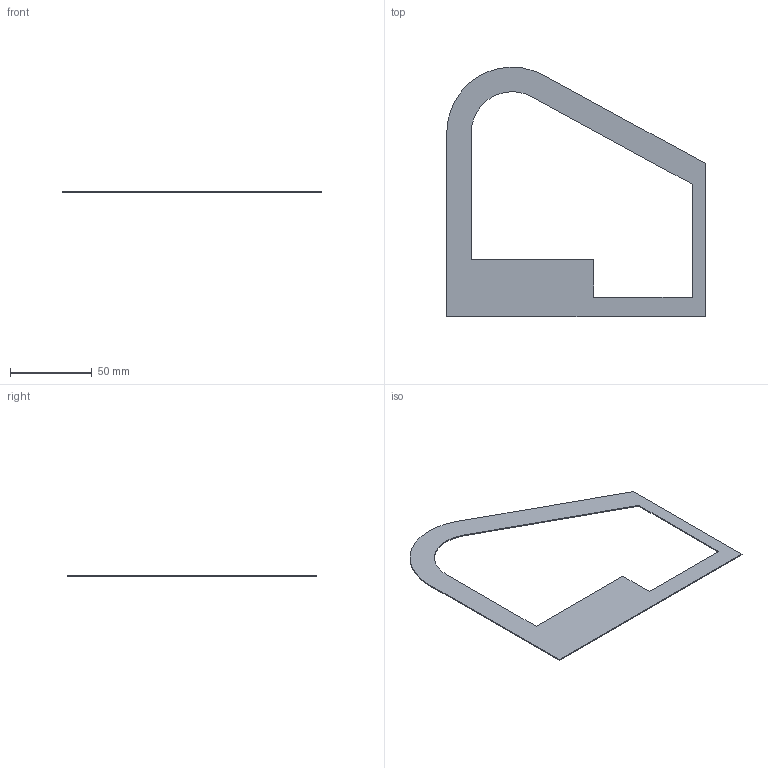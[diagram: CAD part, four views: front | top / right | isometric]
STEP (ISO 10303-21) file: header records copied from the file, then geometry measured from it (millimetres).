
FILE_DESCRIPTION(('STEP AP203'), '1');
FILE_NAME('øàáëîí ìàñêó2', '', ('UNSPECIFIED'), ('UNSPECIFIED'), 'ASCON STEP Converter 1.3', 'ASCON Math Kernel', '');
FILE_SCHEMA(('CONFIG_CONTROL_DESIGN'));
Length unit declared in the file: millimetre
Bounding box: 158 x 152.61 x 0.6 mm (x, y, z)
Volume: 5057.8 mm3; surface area: 17476 mm2
Topology: 1 solids, 1 shells, 14 faces, 36 edges, 24 vertices
Faces by surface type: plane 12, cylinder 2
Entity records: 584 total; most frequent: CARTESIAN_POINT 75, ORIENTED_EDGE 72, DIRECTION 70, EDGE_CURVE 36, LINE 32, VECTOR 32, VERTEX_POINT 24, AXIS2_PLACEMENT_3D 19
